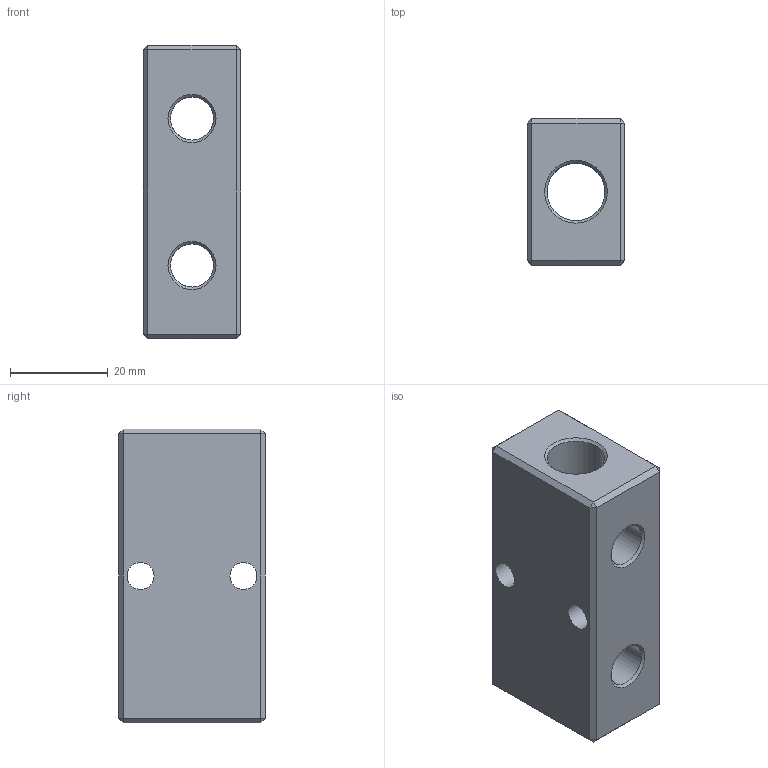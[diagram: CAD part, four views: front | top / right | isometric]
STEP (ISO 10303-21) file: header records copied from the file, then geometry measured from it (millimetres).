
FILE_DESCRIPTION(/* description */ (''),/* implementation_level */ '2;1');
FILE_NAME(/* name */ 'BXH88.stp',/* time_stamp */ '2024-11-14T23:36:52+01:00',/* author */ ('freju'),/* organization */ (''),/* preprocessor_version */ 'ST-DEVELOPER v20',/* originating_system */ 'Autodesk Inventor 2025',/* authorisation */ '');
FILE_SCHEMA (('AUTOMOTIVE_DESIGN { 1 0 10303 214 3 1 1 }'));
Length unit declared in the file: millimetre
Products named in the file (1): BXH88
Bounding box: 20 x 30 x 60 mm (x, y, z)
Volume: 25927.3 mm3; surface area: 10089.9 mm2
Topology: 1 solids, 1 shells, 39 faces, 84 edges, 47 vertices
Faces by surface type: plane 26, cylinder 7, cone 6
Full cylindrical faces by diameter (mm): 5.5 x2, 8.8 x4, 11.8 x1
Entity records: 1248 total; most frequent: CARTESIAN_POINT 335, DIRECTION 179, ORIENTED_EDGE 168, EDGE_CURVE 84, LINE 61, VECTOR 61, AXIS2_PLACEMENT_3D 59, EDGE_LOOP 53
